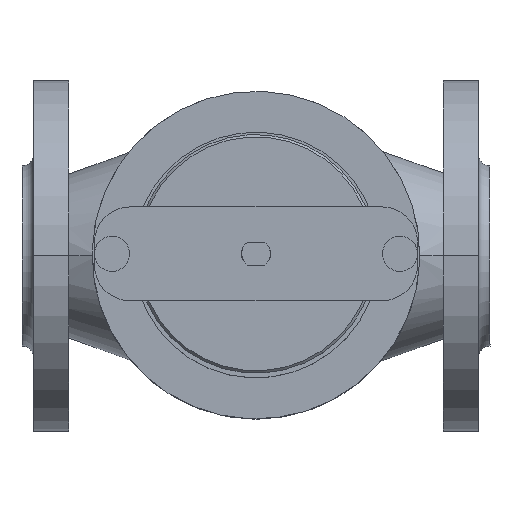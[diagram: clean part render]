
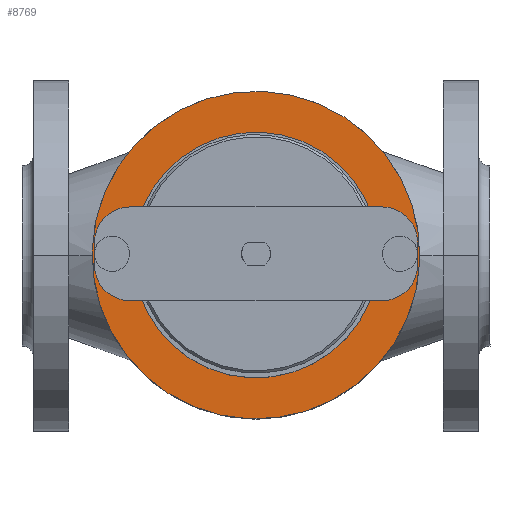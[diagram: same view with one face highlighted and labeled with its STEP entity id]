
A CAD part, top view. The second image highlights one B-rep face of the part: STEP entity #8769.
In plain terms, the highlighted planar face has unit normal (0, 0, 1).
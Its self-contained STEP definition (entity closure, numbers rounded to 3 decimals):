
#135 = ORIENTED_EDGE ( 'NONE', *, *, #534, .F. ) ;
#287 = PLANE ( 'NONE',  #315 ) ;
#315 = AXIS2_PLACEMENT_3D ( 'NONE', #2474, #9575, #417 ) ;
#416 = EDGE_LOOP ( 'NONE', ( #675, #135 ) ) ;
#417 = DIRECTION ( 'NONE',  ( -1., 0., 0. ) ) ;
#484 = VERTEX_POINT ( 'NONE', #1251 ) ;
#534 = EDGE_CURVE ( 'NONE', #850, #3392, #9321, .T. ) ;
#675 = ORIENTED_EDGE ( 'NONE', *, *, #7562, .F. ) ;
#677 = EDGE_CURVE ( 'NONE', #6959, #6561, #3541, .T. ) ;
#807 = CIRCLE ( 'NONE', #8278, 7.5 ) ;
#850 = VERTEX_POINT ( 'NONE', #1459 ) ;
#964 = CARTESIAN_POINT ( 'NONE',  ( -43.172, 11.593, 146.08 ) ) ;
#1070 = AXIS2_PLACEMENT_3D ( 'NONE', #5948, #3942, #2948 ) ;
#1118 = DIRECTION ( 'NONE',  ( 0., 0., 1. ) ) ;
#1214 = AXIS2_PLACEMENT_3D ( 'NONE', #4450, #7776, #3435 ) ;
#1251 = CARTESIAN_POINT ( 'NONE',  ( 45.116, 76.264, 146.08 ) ) ;
#1264 = EDGE_LOOP ( 'NONE', ( #8594, #9482 ) ) ;
#1319 = CARTESIAN_POINT ( 'NONE',  ( 79.828, 19.093, 146.08 ) ) ;
#1441 = CARTESIAN_POINT ( 'NONE',  ( -1.763, -36.911, 146.08 ) ) ;
#1459 = CARTESIAN_POINT ( 'NONE',  ( -43.172, 4.093, 146.08 ) ) ;
#1619 = DIRECTION ( 'NONE',  ( 0., 1., 0. ) ) ;
#1763 = CARTESIAN_POINT ( 'NONE',  ( 18.328, 11.593, 146.08 ) ) ;
#1823 = ORIENTED_EDGE ( 'NONE', *, *, #12630, .F. ) ;
#2387 = EDGE_LOOP ( 'NONE', ( #12045, #3759 ) ) ;
#2474 = CARTESIAN_POINT ( 'NONE',  ( 18.328, 11.593, 146.08 ) ) ;
#2842 = CIRCLE ( 'NONE', #6260, 70. ) ;
#2948 = DIRECTION ( 'NONE',  ( 0., 1., 0. ) ) ;
#3114 = DIRECTION ( 'NONE',  ( 0., 0., -1. ) ) ;
#3160 = CARTESIAN_POINT ( 'NONE',  ( 79.828, 4.093, 146.08 ) ) ;
#3392 = VERTEX_POINT ( 'NONE', #13102 ) ;
#3435 = DIRECTION ( 'NONE',  ( 0., 1., 0. ) ) ;
#3541 = CIRCLE ( 'NONE', #1214, 52.5 ) ;
#3759 = ORIENTED_EDGE ( 'NONE', *, *, #5590, .T. ) ;
#3942 = DIRECTION ( 'NONE',  ( 0., 0., 1. ) ) ;
#3969 = DIRECTION ( 'NONE',  ( 0., 1., 0. ) ) ;
#4450 = CARTESIAN_POINT ( 'NONE',  ( 18.328, 11.593, 146.08 ) ) ;
#4542 = EDGE_CURVE ( 'NONE', #484, #6969, #11057, .T. ) ;
#4823 = AXIS2_PLACEMENT_3D ( 'NONE', #6190, #1118, #5184 ) ;
#4838 = DIRECTION ( 'NONE',  ( -1., 0., 0. ) ) ;
#5184 = DIRECTION ( 'NONE',  ( 0., 1., 0. ) ) ;
#5483 = FACE_OUTER_BOUND ( 'NONE', #1264, .T. ) ;
#5590 = EDGE_CURVE ( 'NONE', #8593, #11517, #807, .T. ) ;
#5682 = AXIS2_PLACEMENT_3D ( 'NONE', #12302, #3114, #8066 ) ;
#5832 = DIRECTION ( 'NONE',  ( 0., 0., -1. ) ) ;
#5948 = CARTESIAN_POINT ( 'NONE',  ( 18.328, 11.593, 146.08 ) ) ;
#6190 = CARTESIAN_POINT ( 'NONE',  ( -43.172, 11.593, 146.08 ) ) ;
#6260 = AXIS2_PLACEMENT_3D ( 'NONE', #1763, #5832, #4838 ) ;
#6331 = DIRECTION ( 'NONE',  ( 0., 0., -1. ) ) ;
#6434 = CARTESIAN_POINT ( 'NONE',  ( 38.419, 60.096, 146.08 ) ) ;
#6561 = VERTEX_POINT ( 'NONE', #1441 ) ;
#6690 = CARTESIAN_POINT ( 'NONE',  ( 79.828, 11.593, 146.08 ) ) ;
#6821 = CIRCLE ( 'NONE', #1070, 52.5 ) ;
#6926 = CIRCLE ( 'NONE', #10768, 7.5 ) ;
#6959 = VERTEX_POINT ( 'NONE', #6434 ) ;
#6969 = VERTEX_POINT ( 'NONE', #8251 ) ;
#7496 = FACE_BOUND ( 'NONE', #416, .T. ) ;
#7562 = EDGE_CURVE ( 'NONE', #3392, #850, #6926, .T. ) ;
#7699 = EDGE_CURVE ( 'NONE', #6969, #484, #2842, .T. ) ;
#7776 = DIRECTION ( 'NONE',  ( 0., 0., 1. ) ) ;
#8066 = DIRECTION ( 'NONE',  ( -1., 0., 0. ) ) ;
#8188 = EDGE_CURVE ( 'NONE', #11517, #8593, #12490, .T. ) ;
#8251 = CARTESIAN_POINT ( 'NONE',  ( -8.46, -53.079, 146.08 ) ) ;
#8278 = AXIS2_PLACEMENT_3D ( 'NONE', #6690, #8763, #1619 ) ;
#8594 = ORIENTED_EDGE ( 'NONE', *, *, #7699, .F. ) ;
#8593 = VERTEX_POINT ( 'NONE', #3160 ) ;
#8763 = DIRECTION ( 'NONE',  ( 0., 0., -1. ) ) ;
#8769 = ADVANCED_FACE ( 'NONE', ( #7496, #5483, #10472, #9510 ), #287, .F. ) ;
#9321 = CIRCLE ( 'NONE', #4823, 7.5 ) ;
#9482 = ORIENTED_EDGE ( 'NONE', *, *, #4542, .F. ) ;
#9510 = FACE_BOUND ( 'NONE', #2387, .T. ) ;
#9575 = DIRECTION ( 'NONE',  ( 0., 0., -1. ) ) ;
#9618 = EDGE_LOOP ( 'NONE', ( #10539, #1823 ) ) ;
#10472 = FACE_BOUND ( 'NONE', #9618, .T. ) ;
#10539 = ORIENTED_EDGE ( 'NONE', *, *, #677, .F. ) ;
#10768 = AXIS2_PLACEMENT_3D ( 'NONE', #964, #13222, #3969 ) ;
#11057 = CIRCLE ( 'NONE', #5682, 70. ) ;
#11314 = DIRECTION ( 'NONE',  ( 0., 1., 0. ) ) ;
#11517 = VERTEX_POINT ( 'NONE', #1319 ) ;
#12045 = ORIENTED_EDGE ( 'NONE', *, *, #8188, .T. ) ;
#12269 = AXIS2_PLACEMENT_3D ( 'NONE', #12444, #6331, #11314 ) ;
#12302 = CARTESIAN_POINT ( 'NONE',  ( 18.328, 11.593, 146.08 ) ) ;
#12444 = CARTESIAN_POINT ( 'NONE',  ( 79.828, 11.593, 146.08 ) ) ;
#12490 = CIRCLE ( 'NONE', #12269, 7.5 ) ;
#12630 = EDGE_CURVE ( 'NONE', #6561, #6959, #6821, .T. ) ;
#13102 = CARTESIAN_POINT ( 'NONE',  ( -43.172, 19.093, 146.08 ) ) ;
#13222 = DIRECTION ( 'NONE',  ( 0., 0., 1. ) ) ;
